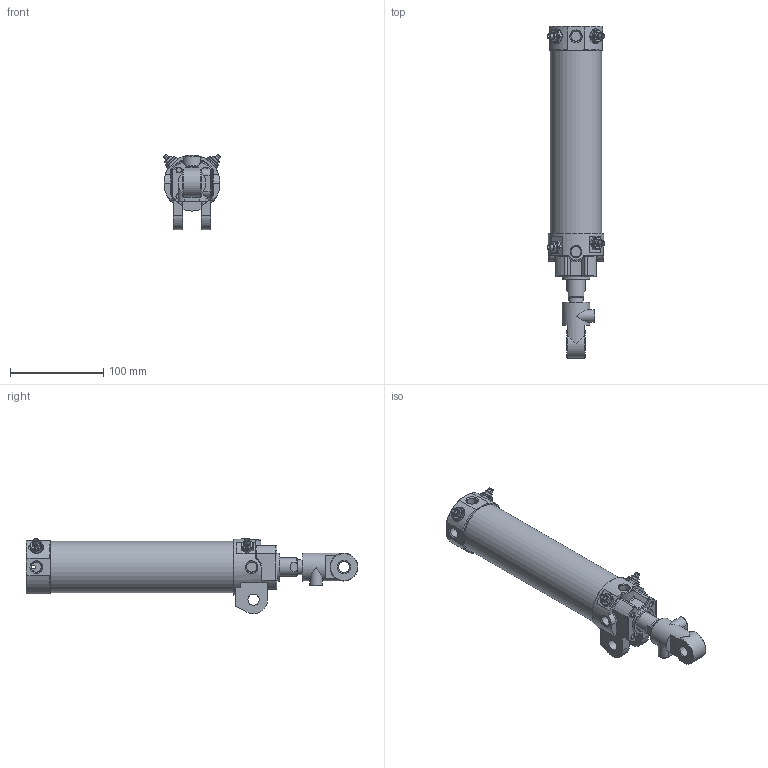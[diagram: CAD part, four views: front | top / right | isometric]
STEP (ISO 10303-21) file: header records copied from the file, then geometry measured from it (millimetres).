
FILE_DESCRIPTION((''),'2;1');
FILE_NAME('I:\3D電子目錄\氣缸\DCK\DCK\DCK-1B-50x150-I.stp','2008-02-26T14:28:19',('Administrator'),(''),'Autodesk Inventor 11','Autodesk Inventor 11','');
FILE_SCHEMA(('AUTOMOTIVE_DESIGN { 1 0 10303 214 1 1 1 1 }'));
Length unit declared in the file: millimetre
Products named in the file (6): DCK-1B-50-I; 緩衝針; 緩衝針-1; 緩衝針-201; 緩衝針-3
Assembly tree (8 placements, depth 3):
  DCK-1B-50-I
    DCK-1B-50-I
    緩衝針  x4
      緩衝針-1
      緩衝針-201
      緩衝針-3
Bounding box: 61.76 x 356 x 80.87 mm (x, y, z)
Volume: 288456.6 mm3; surface area: 134844.7 mm2
Topology: 16 solids, 16 shells, 617 faces, 1375 edges, 859 vertices
Faces by surface type: plane 227, cylinder 180, cone 141, torus 35, bspline 34
Full cylindrical faces by diameter (mm): 2 x2, 3 x4, 3.8 x2, 4 x6, 4.6 x4, 5 x8, 5.1 x4, 5.2 x12, 5.5 x4, 7.25 x1, 7.9 x4, 8 x2, 10.3 x1, 11.3 x1, 12 x5, 12.8 x4, 16 x3, 20 x1, 21 x1, 22 x2, 23 x1, 24.7 x1, 26 x1, 27 x1, 28 x1, 29 x1, 30 x3, 33 x1, 49.5 x1, 52 x2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
Entity records: 12811 total; most frequent: CARTESIAN_POINT 5086, DIRECTION 1580, ORIENTED_EDGE 1388, EDGE_CURVE 694, AXIS2_PLACEMENT_3D 690, EDGE_LOOP 570, VERTEX_POINT 506, FACE_OUTER_BOUND 368
